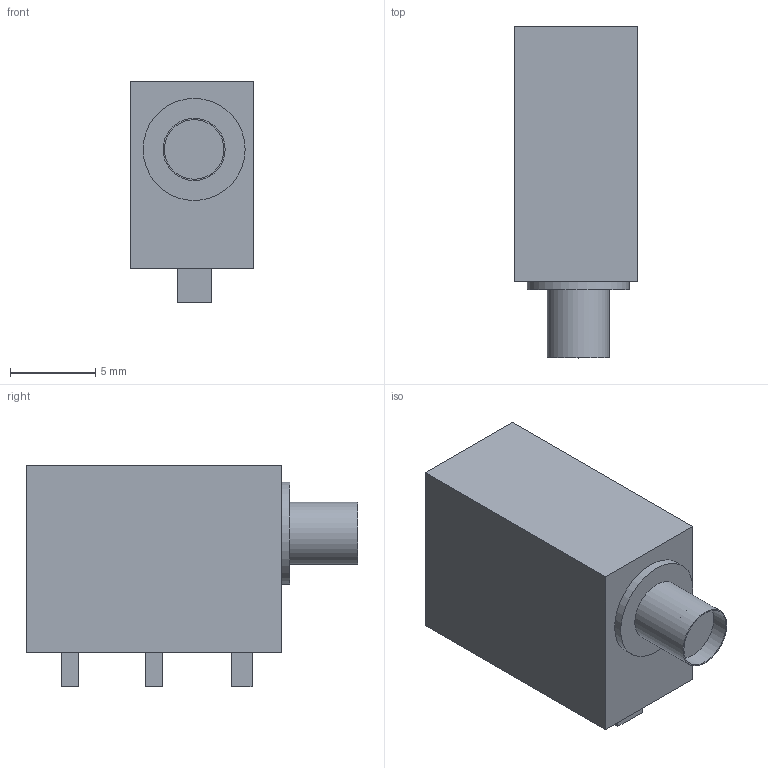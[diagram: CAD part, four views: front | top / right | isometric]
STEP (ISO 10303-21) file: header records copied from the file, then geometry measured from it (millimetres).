
FILE_DESCRIPTION(('FreeCAD Model'),'2;1');
FILE_NAME('Open CASCADE Shape Model','2024-05-27T06:38:22',( 'kicad StepUp'),('ksu MCAD'),'Open CASCADE STEP processor 7.6', 'FreeCAD','Unknown');
FILE_SCHEMA(('AUTOMOTIVE_DESIGN { 1 0 10303 214 1 1 1 1 }'));
Length unit declared in the file: millimetre
Products named in the file (1): Body
Bounding box: 7.25 x 19.5 x 13 mm (x, y, z)
Volume: 1255.4 mm3; surface area: 810.1 mm2
Topology: 1 solids, 1 shells, 27 faces, 57 edges, 38 vertices
Faces by surface type: plane 24, cylinder 3
Full cylindrical faces by diameter (mm): 3.5 x1, 3.65 x1, 6 x1
Entity records: 739 total; most frequent: CARTESIAN_POINT 123, DIRECTION 119, ORIENTED_EDGE 114, EDGE_CURVE 57, LINE 51, VECTOR 51, VERTEX_POINT 38, AXIS2_PLACEMENT_3D 34
